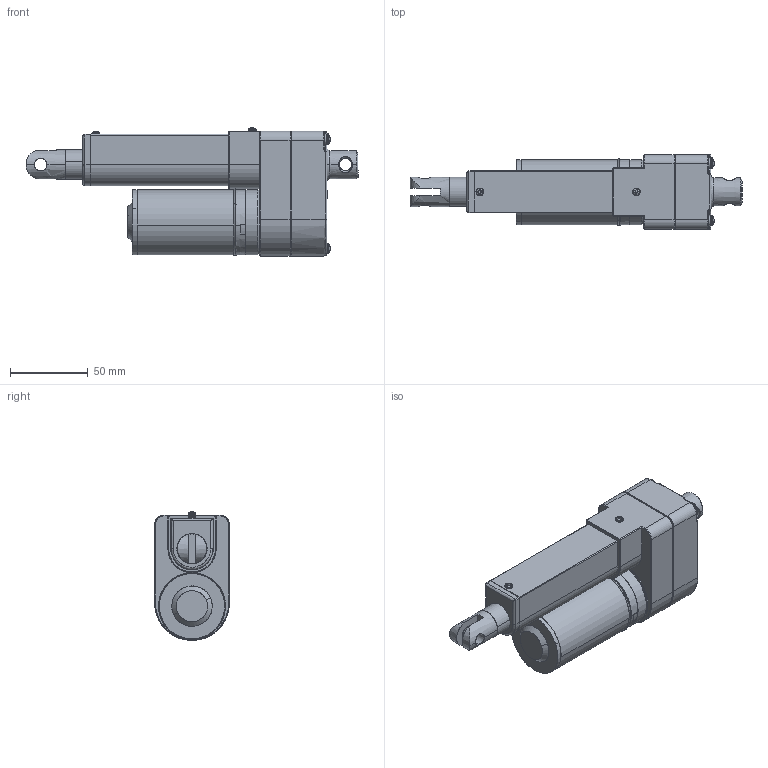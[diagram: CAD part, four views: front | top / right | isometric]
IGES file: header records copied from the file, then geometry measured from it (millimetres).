
Start section: SolidWorks IGES file using analytic representation for surfaces
Global section: file name: S:\W110B\La_3D\LAS2\LAS2ｲﾕｦXｹﾏ_Stroke=50.IGS; native system: SolidWorks 2009; preprocessor: SolidWorks 2009; author: fang; date: 110518.171154; units: millimetre
Bounding box: 213.4 x 48 x 82.79 mm (x, y, z)
Surface area: 66091.5 mm2 (no closed solid volume)
Topology: 0 solids, 0 shells, 441 faces, 6579 edges, 6563 vertices
Faces by surface type: bspline 322, revolution 119
